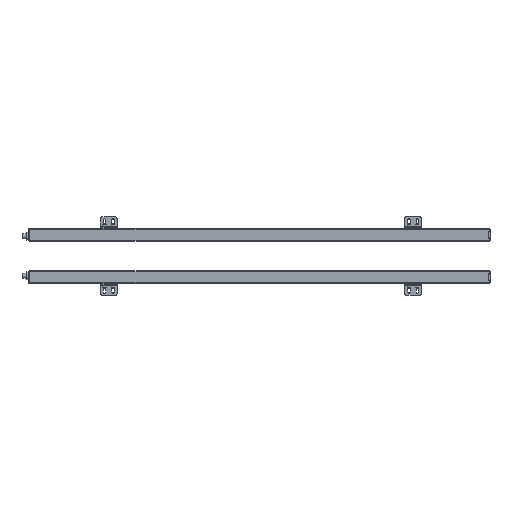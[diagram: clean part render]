
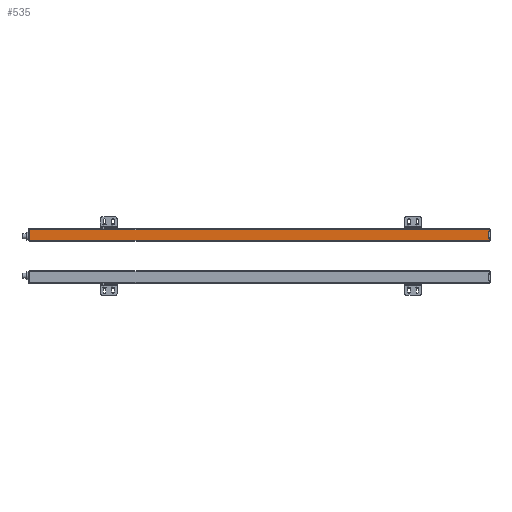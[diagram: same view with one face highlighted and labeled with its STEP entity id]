
A CAD part, top view. The second image highlights one B-rep face of the part: STEP entity #535.
In plain terms, the highlighted planar face has unit normal (0, 0, 1).
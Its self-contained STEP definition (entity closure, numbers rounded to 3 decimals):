
#535 = ADVANCED_FACE( '', ( #1741 ), #1742, .F. );
#1741 = FACE_OUTER_BOUND( '', #3418, .T. );
#1742 = PLANE( '', #3419 );
#3418 = EDGE_LOOP( '', ( #7129, #7130, #7131, #7132, #7133, #7134, #7135, #7136 ) );
#3419 = AXIS2_PLACEMENT_3D( '', #7137, #7138, #7139 );
#7129 = ORIENTED_EDGE( '', *, *, #11014, .F. );
#7130 = ORIENTED_EDGE( '', *, *, #10886, .F. );
#7131 = ORIENTED_EDGE( '', *, *, #11005, .F. );
#7132 = ORIENTED_EDGE( '', *, *, #11002, .F. );
#7133 = ORIENTED_EDGE( '', *, *, #11009, .T. );
#7134 = ORIENTED_EDGE( '', *, *, #10974, .T. );
#7135 = ORIENTED_EDGE( '', *, *, #10956, .T. );
#7136 = ORIENTED_EDGE( '', *, *, #10197, .T. );
#7137 = CARTESIAN_POINT( '', ( 1097.5, 12., 14. ) );
#7138 = DIRECTION( '', ( 0., 0., -1. ) );
#7139 = DIRECTION( '', ( -1., 0., 0. ) );
#10197 = EDGE_CURVE( '', #12055, #12078, #12079, .T. );
#10886 = EDGE_CURVE( '', #13232, #13225, #13234, .T. );
#10956 = EDGE_CURVE( '', #12049, #12055, #13340, .T. );
#10974 = EDGE_CURVE( '', #13363, #12049, #13366, .T. );
#11002 = EDGE_CURVE( '', #13409, #13243, #13410, .T. );
#11005 = EDGE_CURVE( '', #13243, #13232, #13414, .T. );
#11009 = EDGE_CURVE( '', #13409, #13363, #13418, .T. );
#11014 = EDGE_CURVE( '', #13225, #12078, #13423, .T. );
#12049 = VERTEX_POINT( '', #15160 );
#12055 = VERTEX_POINT( '', #15168 );
#12078 = VERTEX_POINT( '', #15205 );
#12079 = LINE( '', #15206, #15207 );
#13225 = VERTEX_POINT( '', #16852 );
#13232 = VERTEX_POINT( '', #16860 );
#13234 = LINE( '', #16863, #16864 );
#13243 = VERTEX_POINT( '', #16876 );
#13340 = LINE( '', #17033, #17034 );
#13363 = VERTEX_POINT( '', #17064 );
#13366 = LINE( '', #17068, #17069 );
#13409 = VERTEX_POINT( '', #17125 );
#13410 = LINE( '', #17126, #17127 );
#13414 = LINE( '', #17132, #17133 );
#13418 = LINE( '', #17140, #17141 );
#13423 = LINE( '', #17150, #17151 );
#15160 = CARTESIAN_POINT( '', ( 3., 8.75, 14. ) );
#15168 = CARTESIAN_POINT( '', ( 3., -6.75, 14. ) );
#15205 = CARTESIAN_POINT( '', ( 3., -12., 14. ) );
#15206 = CARTESIAN_POINT( '', ( 3., 197.5, 14. ) );
#15207 = VECTOR( '', #19502, 1000. );
#16852 = CARTESIAN_POINT( '', ( 1094.5, -12., 14. ) );
#16860 = CARTESIAN_POINT( '', ( 1094.5, -6.75, 14. ) );
#16863 = CARTESIAN_POINT( '', ( 1094.5, 197.5, 14. ) );
#16864 = VECTOR( '', #20602, 1000. );
#16876 = CARTESIAN_POINT( '', ( 1094.5, 8.75, 14. ) );
#17033 = CARTESIAN_POINT( '', ( 3., 197.5, 14. ) );
#17034 = VECTOR( '', #20712, 1000. );
#17064 = CARTESIAN_POINT( '', ( 3., 12., 14. ) );
#17068 = CARTESIAN_POINT( '', ( 3., 197.5, 14. ) );
#17069 = VECTOR( '', #20748, 1000. );
#17125 = CARTESIAN_POINT( '', ( 1094.5, 12., 14. ) );
#17126 = CARTESIAN_POINT( '', ( 1094.5, 197.5, 14. ) );
#17127 = VECTOR( '', #20804, 1000. );
#17132 = CARTESIAN_POINT( '', ( 1094.5, 197.5, 14. ) );
#17133 = VECTOR( '', #20809, 1000. );
#17140 = CARTESIAN_POINT( '', ( 1097.5, 12., 14. ) );
#17141 = VECTOR( '', #20813, 1000. );
#17150 = CARTESIAN_POINT( '', ( 1097.5, -12., 14. ) );
#17151 = VECTOR( '', #20818, 1000. );
#19502 = DIRECTION( '', ( 0., -1., 0. ) );
#20602 = DIRECTION( '', ( 0., -1., 0. ) );
#20712 = DIRECTION( '', ( 0., -1., 0. ) );
#20748 = DIRECTION( '', ( 0., -1., 0. ) );
#20804 = DIRECTION( '', ( 0., -1., 0. ) );
#20809 = DIRECTION( '', ( 0., -1., 0. ) );
#20813 = DIRECTION( '', ( -1., 0., 0. ) );
#20818 = DIRECTION( '', ( -1., 0., 0. ) );
